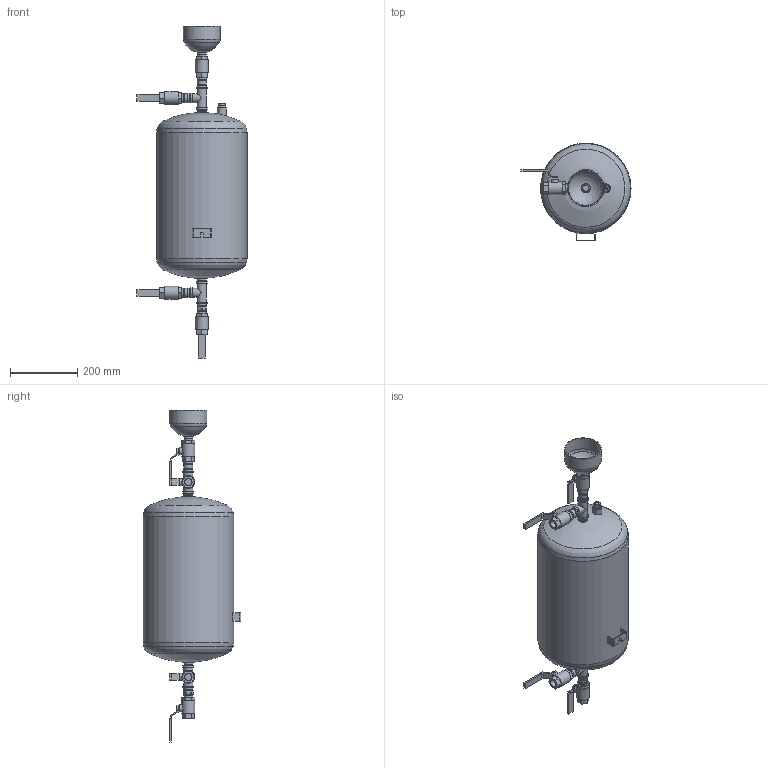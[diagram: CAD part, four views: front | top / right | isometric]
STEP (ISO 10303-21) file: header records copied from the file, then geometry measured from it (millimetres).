
FILE_DESCRIPTION(/* description */ (''),/* implementation_level */ '2;1');
FILE_NAME(/* name */ '\\DATASERVER\data\Flamco\3D-Modellen\Inventor\Dosing Pot\2021\2021 Dosing Pot 25 L\2021_Dosing Pot 25L.stp',/* time_stamp */ '2021-02-17T11:09:08+01:00',/* author */ ('kasius'),/* organization */ (''),/* preprocessor_version */ 'ST-DEVELOPER v17',/* originating_system */ 'Autodesk Inventor 2018',/* authorisation */ '');
FILE_SCHEMA (('AUTOMOTIVE_DESIGN { 1 0 10303 214 3 1 1 }'));
Length unit declared in the file: millimetre
Products named in the file (1): 2021_Dosing Pot 25L
Bounding box: 328.3 x 291.56 x 990.27 mm (x, y, z)
Volume: 26768201.6 mm3; surface area: 632987.8 mm2
Topology: 2 solids, 2 shells, 326 faces, 830 edges, 565 vertices
Faces by surface type: plane 228, cylinder 75, cone 14, torus 5, sphere 4
Full cylindrical faces by diameter (mm): 9.8 x1, 15.875 x8, 19 x1, 19.3 x1, 21.514 x4, 21.749 x3, 23.8 x1, 25.8 x3, 26 x3, 26.5 x1, 26.754 x8, 27 x3, 27.2 x4, 32.64 x4, 38.495 x4, 106 x1, 110 x1, 270 x1
Entity records: 10261 total; most frequent: CARTESIAN_POINT 1924, DIRECTION 1792, ORIENTED_EDGE 1660, EDGE_CURVE 830, AXIS2_PLACEMENT_3D 645, VERTEX_POINT 565, LINE 502, VECTOR 502
